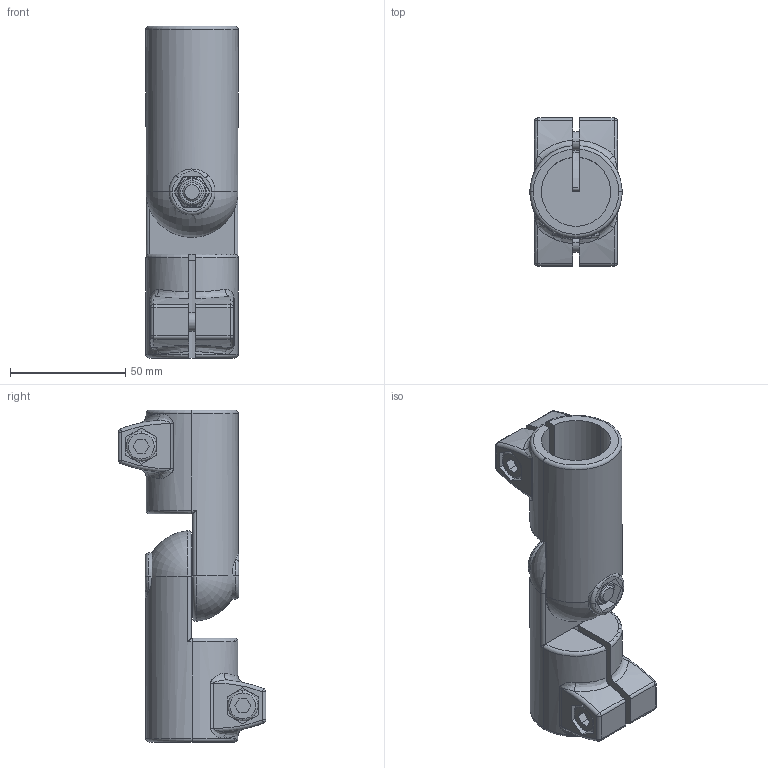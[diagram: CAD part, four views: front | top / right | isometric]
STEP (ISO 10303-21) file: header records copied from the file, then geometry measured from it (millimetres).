
FILE_DESCRIPTION (( 'STEP AP214' ), '1' );
FILE_NAME ('286-B30-B30-S-2-BL.step', '2021-12-02T12:15:14', ( '' ), ( '' ), 'SwSTEP 2.0', 'SolidWorks 2019', '' );
FILE_SCHEMA (( 'AUTOMOTIVE_DESIGN' ));
Length unit declared in the file: millimetre
Products named in the file (3): 286-B30-B30-S-2-BL; WB276_1^WB286_B30-MZ-2-BL; WB276^WB286_B30-IV-2-BL
Assembly tree (2 placements, depth 2):
  286-B30-B30-S-2-BL
    WB276^WB286_B30-IV-2-BL
    WB276_1^WB286_B30-MZ-2-BL
Bounding box: 40 x 64 x 144 mm (x, y, z)
Volume: 116605.3 mm3; surface area: 44408.3 mm2
Topology: 2 solids, 2 shells, 419 faces, 1016 edges, 622 vertices
Faces by surface type: plane 209, cylinder 108, torus 50, cone 24, bspline 20, sphere 8
Entity records: 15928 total; most frequent: CARTESIAN_POINT 5028, ORIENTED_EDGE 2016, DIRECTION 1968, EDGE_CURVE 1008, AXIS2_PLACEMENT_3D 764, VERTEX_POINT 622, EDGE_LOOP 454, LINE 440
